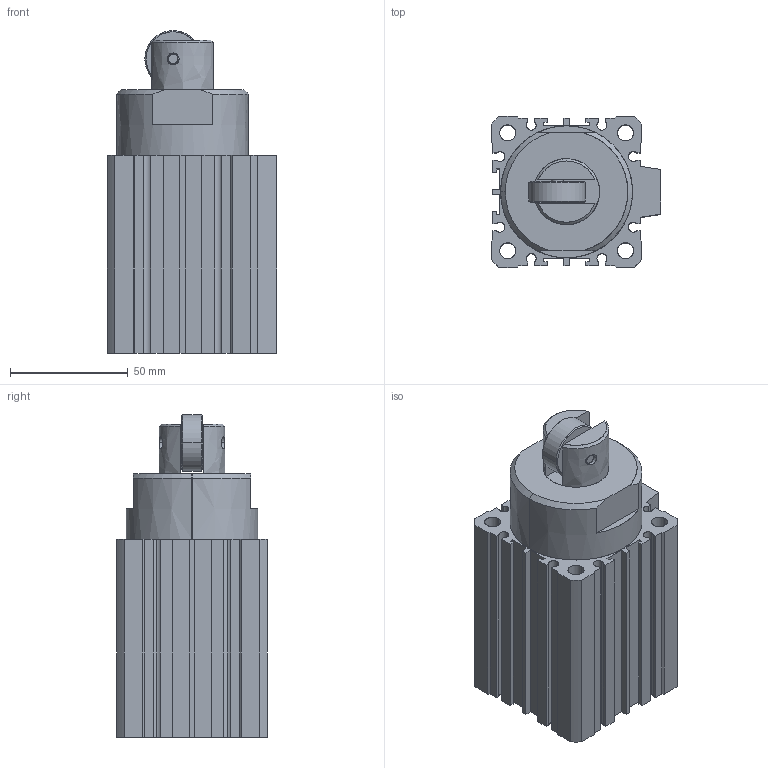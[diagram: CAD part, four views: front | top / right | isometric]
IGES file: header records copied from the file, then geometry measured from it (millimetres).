
Start section: SolidWorks IGES file using analytic representation for surfaces
Global section: file name: C:\Documents and Settings\admin\Bureau\stage de yaya\Plan Philippe Pince\PINCE\VUSB\pièces en 3D\VUSB STEP\ELOC-3DWG\ELOC-50-30-TIGE ENTREE.dwg.IGS; native system: SolidWorks 2007; preprocessor: SolidWorks 2007; author: admin; date: 080331.092636; units: millimetre
Bounding box: 72 x 64 x 137 mm (x, y, z)
Surface area: 74649.3 mm2 (no closed solid volume)
Topology: 0 solids, 0 shells, 878 faces, 10808 edges, 10848 vertices
Faces by surface type: bspline 805, revolution 73
